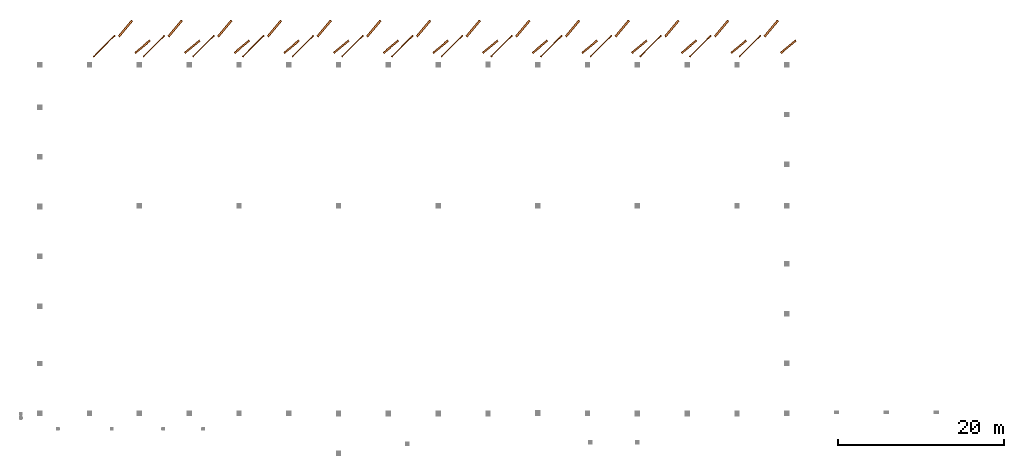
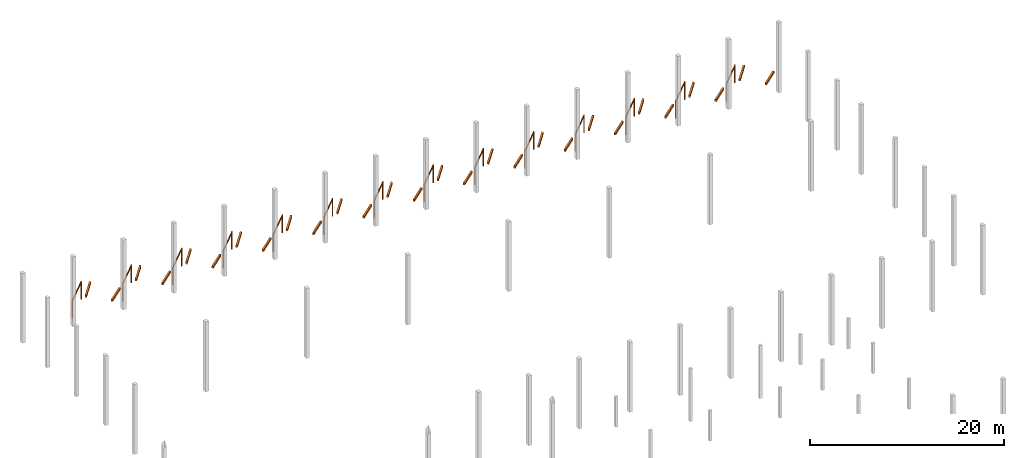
# One storey, part 3 of 3: 14 proxies.
"""IFC2X3 building model written with IfcOpenShell, lengths in millimetres."""

import ifcopenshell
import ifcopenshell.guid

model = None  # the IFC model being written
_history = None  # IfcOwnerHistory: only IFC2X3 demands one
_inside = {}  # id of a spatial element -> (the spatial element, [elements in it])
_under = {}  # id of a project, library or spatial element -> (it, [spatial elements below it])
_declared = {}  # id of a project -> (the project, [libraries it declares])
_typed = {}  # id of a type object -> (the type object, [elements of that type])
_made_of = {}  # id of a material, layer set ... -> (it, [elements and type objects made of it])


def new_model(schema):
    """Start an empty IFC model of exactly this schema.

    Asked for "IFC4X3", IfcOpenShell would pick the latest addendum, in which some entities
    have other attributes; the version numbers below select the first issue.
    IFC2X3 requires an IfcOwnerHistory on every rooted entity: one is made here for all.
    """
    global model, _history
    if schema == "IFC4X3":
        model = ifcopenshell.file(schema_version=(4, 3, 0, 0))
    else:
        model = ifcopenshell.file(schema=schema)
    _inside.clear()
    _under.clear()
    _declared.clear()
    _typed.clear()
    _made_of.clear()
    _history = None
    if model.schema == "IFC2X3":
        org = make("IfcOrganization", Name="unknown")
        user = make(
            "IfcPersonAndOrganization",
            ThePerson=make("IfcPerson", FamilyName="unknown"),
            TheOrganization=org,
        )
        app = make(
            "IfcApplication",
            ApplicationDeveloper=org,
            Version="unknown",
            ApplicationFullName="unknown",
            ApplicationIdentifier="unknown",
        )
        _history = make(
            "IfcOwnerHistory",
            OwningUser=user,
            OwningApplication=app,
            ChangeAction="ADDED",
            CreationDate=0,
        )
    return model


def make(cls, **values):
    """One entity of the class cls with the attributes given. An attribute that is None is left unset."""
    return model.create_entity(
        cls, **{name: value for name, value in values.items() if value is not None}
    )


def entity(cls, *values):
    """Any entity or typed value of the class cls, its attributes in the order of the schema. None: left unset."""
    e = model.create_entity(cls)
    for i, value in enumerate(values):
        if value is not None:
            e[i] = value
    return e


def rooted(cls, **values):
    """An entity with a GlobalId (a new one), such as an element, a storey or a relation."""
    return make(cls, GlobalId=ifcopenshell.guid.new(), OwnerHistory=_history, **values)


def si_unit(unit_type, name, prefix=None):
    """IfcSIUnit, for example si_unit("LENGTHUNIT", "METRE", prefix="MILLI")."""
    return make("IfcSIUnit", UnitType=unit_type, Prefix=prefix, Name=name)


def converted_unit(unit_type, name, factor, base, dimensions=None, offset=None):
    """IfcConversionBasedUnit, such as the inch: factor (a typed value) times the base unit."""
    return make(
        "IfcConversionBasedUnit"
        if offset is None
        else "IfcConversionBasedUnitWithOffset",
        ConversionOffset=offset,
        Dimensions=None
        if dimensions is None
        else entity("IfcDimensionalExponents", *dimensions),
        UnitType=unit_type,
        Name=name,
        ConversionFactor=make(
            "IfcMeasureWithUnit", ValueComponent=factor, UnitComponent=base
        ),
    )


def derived_unit(unit_type, elements):
    """IfcDerivedUnit: a product of units, each with its exponent."""
    return make(
        "IfcDerivedUnit",
        Elements=[
            make("IfcDerivedUnitElement", Unit=unit, Exponent=power)
            for unit, power in elements
        ],
        UnitType=unit_type,
    )


def assignment(units):
    """IfcUnitAssignment: the units of a project."""
    return None if units is None else make("IfcUnitAssignment", Units=units)


def point(xyz):
    """IfcCartesianPoint."""
    return None if xyz is None else make("IfcCartesianPoint", Coordinates=xyz)


def direction(xyz):
    """IfcDirection."""
    return None if xyz is None else make("IfcDirection", DirectionRatios=xyz)


def frame(location, z_axis=None, x_axis=None):
    """IfcAxis2Placement3D, a coordinate frame: its origin and axes. An axis left out is left unset."""
    return make(
        "IfcAxis2Placement3D",
        Location=point(location),
        Axis=direction(z_axis),
        RefDirection=direction(x_axis),
    )


def frame_2d(location, x_axis=None):
    """IfcAxis2Placement2D, a coordinate frame in the plane: its origin and x axis."""
    return make(
        "IfcAxis2Placement2D", Location=point(location), RefDirection=direction(x_axis)
    )


def origin():
    """The frame at (0, 0, 0) with its axes left unset."""
    return frame((0.0, 0.0, 0.0))


def origin_2d_with_axis():
    """The frame at (0, 0) in the plane with the x axis (1, 0) written out."""
    return frame_2d((0.0, 0.0), x_axis=(1.0, 0.0))


def place(relative_to, where):
    """IfcLocalPlacement: puts the frame where relative to a parent placement (None: the world)."""
    return make(
        "IfcLocalPlacement", PlacementRelTo=relative_to, RelativePlacement=where
    )


def context(
    kind, dimensions, precision=None, world=None, true_north=None, identifier=None
):
    """IfcGeometricRepresentationContext, for example the 3D "Model" context."""
    return make(
        "IfcGeometricRepresentationContext",
        ContextIdentifier=identifier,
        ContextType=kind,
        CoordinateSpaceDimension=dimensions,
        Precision=precision,
        WorldCoordinateSystem=world,
        TrueNorth=true_north,
    )


def subcontext(parent, identifier, kind, view, scale=None):
    """IfcGeometricRepresentationSubContext, for example "Body" below "Model"."""
    return make(
        "IfcGeometricRepresentationSubContext",
        ContextIdentifier=identifier,
        ContextType=kind,
        ParentContext=parent,
        TargetScale=scale,
        TargetView=view,
    )


def project(units=None, contexts=None):
    """IfcProject with its units and contexts."""
    return rooted(
        "IfcProject",
        Name="project",
        RepresentationContexts=contexts,
        UnitsInContext=assignment(units),
    )


def spatial(cls, under=None, at=None, **own):
    """A site, building, storey or space (cls), placed at a placement, below another one or the project."""
    s = rooted(cls, ObjectPlacement=at, **own)
    if under is not None:
        _under.setdefault(under.id(), (under, []))[1].append(s)
    return s


def profile(cls, at=None, kind="AREA", **sizes):
    """A parametric profile (cls). Its sizes go by their IFC names, for example OverallWidth=200.0."""
    return make(cls, ProfileType=kind, Position=at, **sizes)


def rectangle(**sizes):
    """IfcRectangleProfileDef."""
    return profile("IfcRectangleProfileDef", **sizes)


def circle(**sizes):
    """IfcCircleProfileDef."""
    return profile("IfcCircleProfileDef", **sizes)


def extrude(swept, where, along, depth):
    """IfcExtrudedAreaSolid: the profile swept, set in the frame where, extruded along a direction by depth."""
    return make(
        "IfcExtrudedAreaSolid",
        SweptArea=swept,
        Position=where,
        ExtrudedDirection=direction(along),
        Depth=depth,
    )


def shape(context_of_items, identifier, shape_type, items):
    """IfcShapeRepresentation: the items that make up one representation, for example the "Body"."""
    return make(
        "IfcShapeRepresentation",
        ContextOfItems=context_of_items,
        RepresentationIdentifier=identifier,
        RepresentationType=shape_type,
        Items=items,
    )


def source(mapping_origin, context_of_items, identifier, shape_type, items):
    """IfcRepresentationMap: a shape defined once, which mapped items show again and again."""
    return make(
        "IfcRepresentationMap",
        MappingOrigin=mapping_origin,
        MappedRepresentation=shape(context_of_items, identifier, shape_type, items),
    )


def transform(
    local_origin,
    x_axis=None,
    y_axis=None,
    z_axis=None,
    scale=None,
    scale2=None,
    scale3=None,
    uniform=True,
):
    """IfcCartesianTransformationOperator3D, or its non-uniform kind. x_axis, y_axis, z_axis: its Axis1, 2, 3."""
    if uniform:
        return make(
            "IfcCartesianTransformationOperator3D",
            Axis1=direction(x_axis),
            Axis2=direction(y_axis),
            LocalOrigin=point(local_origin),
            Scale=scale,
            Axis3=direction(z_axis),
        )
    return make(
        "IfcCartesianTransformationOperator3DnonUniform",
        Axis1=direction(x_axis),
        Axis2=direction(y_axis),
        LocalOrigin=point(local_origin),
        Scale=scale,
        Axis3=direction(z_axis),
        Scale2=scale2,
        Scale3=scale3,
    )


def mapped(mapping_source, mapping_target):
    """IfcMappedItem: shows the shape of a source again, moved by a transform."""
    return make(
        "IfcMappedItem", MappingSource=mapping_source, MappingTarget=mapping_target
    )


def material(Name=None, Category=None):
    """IfcMaterial."""
    return make("IfcMaterial", Name=Name, Category=Category)


def made_of(thing, what):
    """Note that an element or type object is made of a material, layer set ...; save() writes the relation."""
    if what is not None:
        _made_of.setdefault(what.id(), (what, []))[1].append(thing)
    return thing


def type_object(cls, material=None, **own):
    """A type object (cls), such as IfcWallType, which elements share."""
    return made_of(rooted(cls, **own), material)


def type_shapes(of_type, sources):
    """Give a type object the sources (RepresentationMaps) that its elements show as mapped items."""
    of_type.RepresentationMaps = sources


def element(
    cls,
    number,
    at=None,
    inside=None,
    cuts=None,
    type_object=None,
    material=None,
    context=None,
    identifier="Body",
    shape_type=None,
    held_by="IfcProductDefinitionShape",
    body=None,
    shapes=None,
    **own,
):
    """One element of the class cls, such as IfcWall. Its Tag is "e" and its number.

    at: its placement. inside: the storey or other place that contains it. cuts: it is an
    opening in that element (IfcRelVoidsElement). A single representation is given by context,
    identifier, shape_type and body (its items); several are given by shapes. held_by: the class
    of the entity that holds the representations. save() writes the other relations.
    """
    e = rooted(cls, Tag="e%d" % number, ObjectPlacement=at, **own)
    if body is not None:
        shapes = [shape(context, identifier, shape_type, body)]
    if shapes is not None:
        e.Representation = make(held_by, Representations=shapes)
    if inside is not None:
        _inside.setdefault(inside.id(), (inside, []))[1].append(e)
    if cuts is not None:
        rooted(
            "IfcRelVoidsElement", RelatingBuildingElement=cuts, RelatedOpeningElement=e
        )
    if type_object is not None:
        _typed.setdefault(type_object.id(), (type_object, []))[1].append(e)
    return made_of(e, material)


def aggregate(whole, parts):
    """IfcRelAggregates: a whole, such as a stair, and the parts it consists of."""
    return rooted("IfcRelAggregates", RelatingObject=whole, RelatedObjects=parts)


def save(model, path):
    """Write the relations noted so far, then the file.

    IfcRelAggregates (storeys below a building ...), IfcRelContainedInSpatialStructure (elements
    in a storey), IfcRelDefinesByType, IfcRelAssociatesMaterial and IfcRelDeclares: one each for
    every whole, place, type object, material and project.
    """
    for whole, parts in _under.values():
        aggregate(whole, parts)
    for where, things in _inside.values():
        rooted(
            "IfcRelContainedInSpatialStructure",
            RelatedElements=things,
            RelatingStructure=where,
        )
    for kind, things in _typed.values():
        rooted("IfcRelDefinesByType", RelatedObjects=things, RelatingType=kind)
    for what, things in _made_of.values():
        rooted("IfcRelAssociatesMaterial", RelatedObjects=things, RelatingMaterial=what)
    for by, libraries in _declared.values():
        rooted("IfcRelDeclares", RelatingContext=by, RelatedDefinitions=libraries)
    model.write(path)


model = new_model("IFC2X3")

# Units and contexts
model_context = context("Model", 3, precision=0.01, world=origin(), true_north=direction((4.05803320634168e-15, -1.0)))
body_context = subcontext(model_context, "Body", "Model", "MODEL_VIEW")
ifc_project = project(units=[si_unit("LENGTHUNIT", "METRE", prefix="MILLI"), si_unit("AREAUNIT", "SQUARE_METRE"), si_unit("VOLUMEUNIT", "CUBIC_METRE"), converted_unit("PLANEANGLEUNIT", "DEGREE", entity("IfcRatioMeasure", 0.0174532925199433), si_unit("PLANEANGLEUNIT", "RADIAN"), dimensions=[0, 0, 0, 0, 0, 0, 0]), si_unit("MASSUNIT", "GRAM", prefix="KILO"), derived_unit("MASSDENSITYUNIT", [(si_unit("MASSUNIT", "GRAM", prefix="KILO"), 1), (si_unit("LENGTHUNIT", "METRE"), -3)]), si_unit("TIMEUNIT", "SECOND"), si_unit("FREQUENCYUNIT", "HERTZ"), si_unit("THERMODYNAMICTEMPERATUREUNIT", "DEGREE_CELSIUS"), derived_unit("THERMALTRANSMITTANCEUNIT", [(si_unit("MASSUNIT", "GRAM", prefix="KILO"), 1), (si_unit("THERMODYNAMICTEMPERATUREUNIT", "KELVIN"), -1), (si_unit("TIMEUNIT", "SECOND"), -3)]), derived_unit("VOLUMETRICFLOWRATEUNIT", [(si_unit("LENGTHUNIT", "METRE"), 3), (si_unit("TIMEUNIT", "SECOND"), -1)]), si_unit("ELECTRICCURRENTUNIT", "AMPERE"), si_unit("ELECTRICVOLTAGEUNIT", "VOLT"), si_unit("POWERUNIT", "WATT"), si_unit("FORCEUNIT", "NEWTON", prefix="KILO"), si_unit("ILLUMINANCEUNIT", "LUX"), si_unit("LUMINOUSFLUXUNIT", "LUMEN"), si_unit("LUMINOUSINTENSITYUNIT", "CANDELA"), derived_unit("USERDEFINED", [(si_unit("MASSUNIT", "GRAM", prefix="KILO"), -1), (si_unit("LENGTHUNIT", "METRE"), -2), (si_unit("TIMEUNIT", "SECOND"), 3), (si_unit("LUMINOUSFLUXUNIT", "LUMEN"), 1)]), derived_unit("LINEARVELOCITYUNIT", [(si_unit("LENGTHUNIT", "METRE"), 1), (si_unit("TIMEUNIT", "SECOND"), -1)]), si_unit("PRESSUREUNIT", "PASCAL"), derived_unit("USERDEFINED", [(si_unit("LENGTHUNIT", "METRE"), -2), (si_unit("MASSUNIT", "GRAM", prefix="KILO"), 1), (si_unit("TIMEUNIT", "SECOND"), -2)])], contexts=[model_context])

# Site, building, storey
site_placement = place(None, frame((927466.849349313, 583801.882853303, 0.0), z_axis=(0.0, 0.0, 1.0), x_axis=(-1.0, 0.0, 0.0)))
site = spatial("IfcSite", under=ifc_project, at=site_placement, Name="Surface", CompositionType="ELEMENT")
building_placement = place(site_placement, origin())
building = spatial("IfcBuilding", under=site, at=building_placement, CompositionType="ELEMENT")
storey_placement = place(building_placement, origin())
storey = spatial("IfcBuildingStorey", under=building, at=storey_placement, Name="0. Base level", CompositionType="ELEMENT", Elevation=0.0)

# Proxies
ifc_material = material(Name="bollards")
building_element_proxy_type_1 = type_object("IfcBuildingElementProxyType", Name="Generic Models 44", PredefinedType="NOTDEFINED", material=ifc_material)
shared_shape_1 = source(origin(), body_context, "Body", "SweptSolid", [
    extrude(rectangle(XDim=2506.31363813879, YDim=199.999999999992, at=frame_2d((1.11413100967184e-11, -1.32942545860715e-11), x_axis=(1.0, 0.0))), frame((-133207.854176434, -34712.8468466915, 42770.0), z_axis=(0.0, 0.0, 1.0), x_axis=(0.642787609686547, 0.766044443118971, 0.0)), (0.0, 0.0, 1.0), 268.50535536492),
    extrude(rectangle(XDim=2308.44005245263, YDim=199.999999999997, at=origin_2d_with_axis()), frame((-135265.885173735, -32515.4305244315, 42770.0), z_axis=(0.0, 0.0, 1.0), x_axis=(0.766044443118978, 0.64278760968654, 0.0)), (0.0, 0.0, 1.0), 268.50535536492),
    extrude(rectangle(XDim=3383.81005692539, YDim=99.9999999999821, at=frame_2d((-1.22781784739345e-11, 1.22497567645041e-11), x_axis=(1.0, 0.0))), frame((-130646.95155095, -32586.0667509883, 44746.1646464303), z_axis=(0.0, 0.0, 1.0), x_axis=(0.707106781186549, 0.707106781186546, 0.0)), (0.0, 0.0, 1.0), 195.463424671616),
    extrude(circle(Radius=75.0, at=origin_2d_with_axis()), frame((-131873.020932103, -33810.9678051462, 42695.9057084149)), (0.0, 0.0, 1.0), 2245.72236268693),
    extrude(circle(Radius=75.0, at=origin_2d_with_axis()), frame((-129412.832202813, -31353.5552474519, 42695.9057084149)), (0.0, 0.0, 1.0), 2245.72236268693),
])
type_shapes(building_element_proxy_type_1, [shared_shape_1])
proxy_1_placement = place(storey_placement, origin())
element("IfcBuildingElementProxy", 1, at=proxy_1_placement, inside=storey, type_object=building_element_proxy_type_1, material=ifc_material, Name="Generic Models 45:Generic Models 44", ObjectType="Generic Models 44", context=body_context, shape_type="MappedRepresentation", body=[
    mapped(shared_shape_1, transform((0.0, 0.0, 0.0), scale=1.0)),
])
building_element_proxy_type_2 = type_object("IfcBuildingElementProxyType", Name="Generic Models 44", PredefinedType="NOTDEFINED", material=ifc_material)
shared_shape_2 = source(origin(), body_context, "Body", "SweptSolid", [
    extrude(rectangle(XDim=2506.31363813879, YDim=199.999999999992, at=origin_2d_with_axis()), frame((-127222.530895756, -34712.8468466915, 42770.0), z_axis=(0.0, 0.0, 1.0), x_axis=(0.642787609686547, 0.766044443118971, 0.0)), (0.0, 0.0, 1.0), 268.50535536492),
    extrude(rectangle(XDim=2308.44005245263, YDim=199.999999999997, at=frame_2d((-1.33013600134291e-11, 1.11342046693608e-11), x_axis=(1.0, 0.0))), frame((-129280.561893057, -32515.4305244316, 42770.0), z_axis=(0.0, 0.0, 1.0), x_axis=(0.766044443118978, 0.64278760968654, 0.0)), (0.0, 0.0, 1.0), 268.50535536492),
    extrude(rectangle(XDim=3383.81005692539, YDim=99.9999999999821, at=origin_2d_with_axis()), frame((-124661.628270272, -32586.0667509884, 44746.1646464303), z_axis=(0.0, 0.0, 1.0), x_axis=(0.707106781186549, 0.707106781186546, 0.0)), (0.0, 0.0, 1.0), 195.463424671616),
    extrude(circle(Radius=75.0, at=origin_2d_with_axis()), frame((-125887.697651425, -33810.9678051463, 42695.9057084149)), (0.0, 0.0, 1.0), 2245.72236268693),
    extrude(circle(Radius=75.0, at=origin_2d_with_axis()), frame((-123427.508922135, -31353.5552474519, 42695.9057084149)), (0.0, 0.0, 1.0), 2245.72236268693),
])
type_shapes(building_element_proxy_type_2, [shared_shape_2])
proxy_2_placement = place(storey_placement, origin())
element("IfcBuildingElementProxy", 2, at=proxy_2_placement, inside=storey, type_object=building_element_proxy_type_2, material=ifc_material, Name="Generic Models 46:Generic Models 44", ObjectType="Generic Models 44", context=body_context, shape_type="MappedRepresentation", body=[
    mapped(shared_shape_2, transform((0.0, 0.0, 0.0), scale=1.0)),
])
building_element_proxy_type_3 = type_object("IfcBuildingElementProxyType", Name="Generic Models 44", PredefinedType="NOTDEFINED", material=ifc_material)
shared_shape_3 = source(origin(), body_context, "Body", "SweptSolid", [
    extrude(rectangle(XDim=2506.31363813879, YDim=199.999999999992, at=frame_2d((1.11413100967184e-11, -1.32942545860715e-11), x_axis=(1.0, 0.0))), frame((-121237.207615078, -34712.8468466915, 42770.0), z_axis=(0.0, 0.0, 1.0), x_axis=(0.642787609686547, 0.766044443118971, 0.0)), (0.0, 0.0, 1.0), 268.50535536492),
    extrude(rectangle(XDim=2308.44005245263, YDim=199.999999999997, at=origin_2d_with_axis()), frame((-123295.238612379, -32515.4305244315, 42770.0), z_axis=(0.0, 0.0, 1.0), x_axis=(0.766044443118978, 0.64278760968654, 0.0)), (0.0, 0.0, 1.0), 268.50535536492),
    extrude(rectangle(XDim=3383.81005692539, YDim=99.9999999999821, at=frame_2d((-1.22781784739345e-11, 1.22497567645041e-11), x_axis=(1.0, 0.0))), frame((-118676.304989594, -32586.0667509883, 44746.1646464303), z_axis=(0.0, 0.0, 1.0), x_axis=(0.707106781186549, 0.707106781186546, 0.0)), (0.0, 0.0, 1.0), 195.463424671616),
    extrude(circle(Radius=75.0, at=origin_2d_with_axis()), frame((-119902.374370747, -33810.9678051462, 42695.9057084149)), (0.0, 0.0, 1.0), 2245.72236268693),
    extrude(circle(Radius=75.0, at=origin_2d_with_axis()), frame((-117442.185641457, -31353.5552474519, 42695.9057084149)), (0.0, 0.0, 1.0), 2245.72236268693),
])
type_shapes(building_element_proxy_type_3, [shared_shape_3])
proxy_3_placement = place(storey_placement, origin())
element("IfcBuildingElementProxy", 3, at=proxy_3_placement, inside=storey, type_object=building_element_proxy_type_3, material=ifc_material, Name="Generic Models 47:Generic Models 44", ObjectType="Generic Models 44", context=body_context, shape_type="MappedRepresentation", body=[
    mapped(shared_shape_3, transform((0.0, 0.0, 0.0), scale=1.0)),
])
building_element_proxy_type_4 = type_object("IfcBuildingElementProxyType", Name="Generic Models 44", PredefinedType="NOTDEFINED", material=ifc_material)
shared_shape_4 = source(origin(), body_context, "Body", "SweptSolid", [
    extrude(rectangle(XDim=2506.31363813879, YDim=199.999999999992, at=origin_2d_with_axis()), frame((-115251.8843344, -34712.8468466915, 42770.0), z_axis=(0.0, 0.0, 1.0), x_axis=(0.642787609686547, 0.766044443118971, 0.0)), (0.0, 0.0, 1.0), 268.50535536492),
    extrude(rectangle(XDim=2308.44005245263, YDim=199.999999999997, at=frame_2d((-1.33013600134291e-11, 1.11342046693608e-11), x_axis=(1.0, 0.0))), frame((-117309.915331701, -32515.4305244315, 42770.0), z_axis=(0.0, 0.0, 1.0), x_axis=(0.766044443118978, 0.64278760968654, 0.0)), (0.0, 0.0, 1.0), 268.50535536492),
    extrude(rectangle(XDim=3383.81005692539, YDim=99.9999999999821, at=frame_2d((-1.22781784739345e-11, 1.22497567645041e-11), x_axis=(1.0, 0.0))), frame((-112690.981708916, -32586.0667509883, 44746.1646464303), z_axis=(0.0, 0.0, 1.0), x_axis=(0.707106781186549, 0.707106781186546, 0.0)), (0.0, 0.0, 1.0), 195.463424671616),
    extrude(circle(Radius=75.0, at=origin_2d_with_axis()), frame((-113917.051090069, -33810.9678051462, 42695.9057084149)), (0.0, 0.0, 1.0), 2245.72236268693),
    extrude(circle(Radius=75.0, at=origin_2d_with_axis()), frame((-111456.862360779, -31353.5552474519, 42695.9057084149)), (0.0, 0.0, 1.0), 2245.72236268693),
])
type_shapes(building_element_proxy_type_4, [shared_shape_4])
proxy_4_placement = place(storey_placement, origin())
element("IfcBuildingElementProxy", 4, at=proxy_4_placement, inside=storey, type_object=building_element_proxy_type_4, material=ifc_material, Name="Generic Models 48:Generic Models 44", ObjectType="Generic Models 44", context=body_context, shape_type="MappedRepresentation", body=[
    mapped(shared_shape_4, transform((0.0, 0.0, 0.0), scale=1.0)),
])
building_element_proxy_type_5 = type_object("IfcBuildingElementProxyType", Name="Generic Models 44", PredefinedType="NOTDEFINED", material=ifc_material)
shared_shape_5 = source(origin(), body_context, "Body", "SweptSolid", [
    extrude(rectangle(XDim=2506.31363813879, YDim=199.999999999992, at=frame_2d((1.11413100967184e-11, -1.32942545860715e-11), x_axis=(1.0, 0.0))), frame((-109266.561053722, -34712.8468466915, 42770.0), z_axis=(0.0, 0.0, 1.0), x_axis=(0.642787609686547, 0.766044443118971, 0.0)), (0.0, 0.0, 1.0), 268.50535536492),
    extrude(rectangle(XDim=2308.44005245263, YDim=199.999999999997, at=origin_2d_with_axis()), frame((-111324.592051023, -32515.4305244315, 42770.0), z_axis=(0.0, 0.0, 1.0), x_axis=(0.766044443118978, 0.64278760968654, 0.0)), (0.0, 0.0, 1.0), 268.50535536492),
    extrude(rectangle(XDim=3383.81005692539, YDim=99.9999999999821, at=frame_2d((-1.22781784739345e-11, 1.22497567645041e-11), x_axis=(1.0, 0.0))), frame((-106705.658428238, -32586.0667509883, 44746.1646464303), z_axis=(0.0, 0.0, 1.0), x_axis=(0.707106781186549, 0.707106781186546, 0.0)), (0.0, 0.0, 1.0), 195.463424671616),
    extrude(circle(Radius=75.0, at=origin_2d_with_axis()), frame((-107931.72780939, -33810.9678051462, 42695.9057084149)), (0.0, 0.0, 1.0), 2245.72236268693),
    extrude(circle(Radius=75.0, at=origin_2d_with_axis()), frame((-105471.539080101, -31353.5552474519, 42695.9057084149)), (0.0, 0.0, 1.0), 2245.72236268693),
])
type_shapes(building_element_proxy_type_5, [shared_shape_5])
proxy_5_placement = place(storey_placement, origin())
element("IfcBuildingElementProxy", 5, at=proxy_5_placement, inside=storey, type_object=building_element_proxy_type_5, material=ifc_material, Name="Generic Models 49:Generic Models 44", ObjectType="Generic Models 44", context=body_context, shape_type="MappedRepresentation", body=[
    mapped(shared_shape_5, transform((0.0, 0.0, 0.0), scale=1.0)),
])
building_element_proxy_type_6 = type_object("IfcBuildingElementProxyType", Name="Generic Models 44", PredefinedType="NOTDEFINED", material=ifc_material)
shared_shape_6 = source(origin(), body_context, "Body", "SweptSolid", [
    extrude(rectangle(XDim=2506.31363813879, YDim=199.999999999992, at=origin_2d_with_axis()), frame((-103281.237773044, -34712.8468466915, 42770.0), z_axis=(0.0, 0.0, 1.0), x_axis=(0.642787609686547, 0.766044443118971, 0.0)), (0.0, 0.0, 1.0), 268.50535536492),
    extrude(rectangle(XDim=2308.44005245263, YDim=199.999999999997, at=frame_2d((-1.33013600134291e-11, 1.11342046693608e-11), x_axis=(1.0, 0.0))), frame((-105339.268770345, -32515.4305244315, 42770.0), z_axis=(0.0, 0.0, 1.0), x_axis=(0.766044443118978, 0.64278760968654, 0.0)), (0.0, 0.0, 1.0), 268.50535536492),
    extrude(rectangle(XDim=3383.81005692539, YDim=99.9999999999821, at=frame_2d((-1.22781784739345e-11, 1.22497567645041e-11), x_axis=(1.0, 0.0))), frame((-100720.33514756, -32586.0667509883, 44746.1646464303), z_axis=(0.0, 0.0, 1.0), x_axis=(0.707106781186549, 0.707106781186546, 0.0)), (0.0, 0.0, 1.0), 195.463424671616),
    extrude(circle(Radius=75.0, at=origin_2d_with_axis()), frame((-101946.404528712, -33810.9678051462, 42695.9057084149)), (0.0, 0.0, 1.0), 2245.72236268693),
    extrude(circle(Radius=75.0, at=origin_2d_with_axis()), frame((-99486.215799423, -31353.5552474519, 42695.9057084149)), (0.0, 0.0, 1.0), 2245.72236268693),
])
type_shapes(building_element_proxy_type_6, [shared_shape_6])
proxy_6_placement = place(storey_placement, origin())
element("IfcBuildingElementProxy", 6, at=proxy_6_placement, inside=storey, type_object=building_element_proxy_type_6, material=ifc_material, Name="Generic Models 50:Generic Models 44", ObjectType="Generic Models 44", context=body_context, shape_type="MappedRepresentation", body=[
    mapped(shared_shape_6, transform((0.0, 0.0, 0.0), scale=1.0)),
])
building_element_proxy_type_7 = type_object("IfcBuildingElementProxyType", Name="Generic Models 44", PredefinedType="NOTDEFINED", material=ifc_material)
shared_shape_7 = source(origin(), body_context, "Body", "SweptSolid", [
    extrude(rectangle(XDim=2506.31363813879, YDim=199.999999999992, at=frame_2d((1.11413100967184e-11, -1.32942545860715e-11), x_axis=(1.0, 0.0))), frame((-97295.9144923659, -34712.8468466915, 42770.0), z_axis=(0.0, 0.0, 1.0), x_axis=(0.642787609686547, 0.766044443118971, 0.0)), (0.0, 0.0, 1.0), 268.50535536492),
    extrude(rectangle(XDim=2308.44005245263, YDim=199.999999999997, at=origin_2d_with_axis()), frame((-99353.9454896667, -32515.4305244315, 42770.0), z_axis=(0.0, 0.0, 1.0), x_axis=(0.766044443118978, 0.64278760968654, 0.0)), (0.0, 0.0, 1.0), 268.50535536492),
    extrude(rectangle(XDim=3383.81005692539, YDim=99.9999999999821, at=frame_2d((-1.22781784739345e-11, 1.22497567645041e-11), x_axis=(1.0, 0.0))), frame((-94735.0118668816, -32586.0667509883, 44746.1646464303), z_axis=(0.0, 0.0, 1.0), x_axis=(0.707106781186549, 0.707106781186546, 0.0)), (0.0, 0.0, 1.0), 195.463424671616),
    extrude(circle(Radius=75.0, at=origin_2d_with_axis()), frame((-95961.0812480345, -33810.9678051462, 42695.9057084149)), (0.0, 0.0, 1.0), 2245.72236268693),
    extrude(circle(Radius=75.0, at=origin_2d_with_axis()), frame((-93500.8925187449, -31353.5552474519, 42695.9057084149)), (0.0, 0.0, 1.0), 2245.72236268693),
])
type_shapes(building_element_proxy_type_7, [shared_shape_7])
proxy_7_placement = place(storey_placement, origin())
element("IfcBuildingElementProxy", 7, at=proxy_7_placement, inside=storey, type_object=building_element_proxy_type_7, material=ifc_material, Name="Generic Models 51:Generic Models 44", ObjectType="Generic Models 44", context=body_context, shape_type="MappedRepresentation", body=[
    mapped(shared_shape_7, transform((0.0, 0.0, 0.0), scale=1.0)),
])
building_element_proxy_type_8 = type_object("IfcBuildingElementProxyType", Name="Generic Models 44", PredefinedType="NOTDEFINED", material=ifc_material)
shared_shape_8 = source(origin(), body_context, "Body", "SweptSolid", [
    extrude(rectangle(XDim=2506.31363813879, YDim=199.999999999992, at=origin_2d_with_axis()), frame((-91310.5912116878, -34712.8468466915, 42770.0), z_axis=(0.0, 0.0, 1.0), x_axis=(0.642787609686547, 0.766044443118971, 0.0)), (0.0, 0.0, 1.0), 268.50535536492),
    extrude(rectangle(XDim=2308.44005245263, YDim=199.999999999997, at=frame_2d((-1.33013600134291e-11, 1.11342046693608e-11), x_axis=(1.0, 0.0))), frame((-93368.6222089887, -32515.4305244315, 42770.0), z_axis=(0.0, 0.0, 1.0), x_axis=(0.766044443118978, 0.64278760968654, 0.0)), (0.0, 0.0, 1.0), 268.50535536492),
    extrude(rectangle(XDim=3383.81005692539, YDim=99.9999999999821, at=frame_2d((-1.22781784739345e-11, 1.22497567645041e-11), x_axis=(1.0, 0.0))), frame((-88749.6885862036, -32586.0667509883, 44746.1646464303), z_axis=(0.0, 0.0, 1.0), x_axis=(0.707106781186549, 0.707106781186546, 0.0)), (0.0, 0.0, 1.0), 195.463424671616),
    extrude(circle(Radius=75.0, at=origin_2d_with_axis()), frame((-89975.7579673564, -33810.9678051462, 42695.9057084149)), (0.0, 0.0, 1.0), 2245.72236268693),
    extrude(circle(Radius=75.0, at=origin_2d_with_axis()), frame((-87515.5692380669, -31353.5552474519, 42695.9057084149)), (0.0, 0.0, 1.0), 2245.72236268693),
])
type_shapes(building_element_proxy_type_8, [shared_shape_8])
proxy_8_placement = place(storey_placement, origin())
element("IfcBuildingElementProxy", 8, at=proxy_8_placement, inside=storey, type_object=building_element_proxy_type_8, material=ifc_material, Name="Generic Models 52:Generic Models 44", ObjectType="Generic Models 44", context=body_context, shape_type="MappedRepresentation", body=[
    mapped(shared_shape_8, transform((0.0, 0.0, 0.0), scale=1.0)),
])
building_element_proxy_type_9 = type_object("IfcBuildingElementProxyType", Name="Generic Models 44", PredefinedType="NOTDEFINED", material=ifc_material)
shared_shape_9 = source(origin(), body_context, "Body", "SweptSolid", [
    extrude(rectangle(XDim=2506.31363813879, YDim=199.999999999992, at=frame_2d((1.11413100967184e-11, -1.32942545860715e-11), x_axis=(1.0, 0.0))), frame((-85325.2679310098, -34712.8468466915, 42770.0), z_axis=(0.0, 0.0, 1.0), x_axis=(0.642787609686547, 0.766044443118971, 0.0)), (0.0, 0.0, 1.0), 268.50535536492),
    extrude(rectangle(XDim=2308.44005245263, YDim=199.999999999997, at=origin_2d_with_axis()), frame((-87383.2989283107, -32515.4305244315, 42770.0), z_axis=(0.0, 0.0, 1.0), x_axis=(0.766044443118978, 0.64278760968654, 0.0)), (0.0, 0.0, 1.0), 268.50535536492),
    extrude(rectangle(XDim=3383.81005692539, YDim=99.9999999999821, at=frame_2d((-1.22781784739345e-11, 1.22497567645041e-11), x_axis=(1.0, 0.0))), frame((-82764.3653055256, -32586.0667509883, 44746.1646464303), z_axis=(0.0, 0.0, 1.0), x_axis=(0.707106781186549, 0.707106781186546, 0.0)), (0.0, 0.0, 1.0), 195.463424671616),
    extrude(circle(Radius=75.0, at=origin_2d_with_axis()), frame((-83990.4346866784, -33810.9678051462, 42695.9057084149)), (0.0, 0.0, 1.0), 2245.72236268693),
    extrude(circle(Radius=75.0, at=origin_2d_with_axis()), frame((-81530.2459573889, -31353.5552474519, 42695.9057084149)), (0.0, 0.0, 1.0), 2245.72236268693),
])
type_shapes(building_element_proxy_type_9, [shared_shape_9])
proxy_9_placement = place(storey_placement, origin())
element("IfcBuildingElementProxy", 9, at=proxy_9_placement, inside=storey, type_object=building_element_proxy_type_9, material=ifc_material, Name="Generic Models 53:Generic Models 44", ObjectType="Generic Models 44", context=body_context, shape_type="MappedRepresentation", body=[
    mapped(shared_shape_9, transform((0.0, 0.0, 0.0), scale=1.0)),
])
building_element_proxy_type_10 = type_object("IfcBuildingElementProxyType", Name="Generic Models 44", PredefinedType="NOTDEFINED", material=ifc_material)
shared_shape_10 = source(origin(), body_context, "Body", "SweptSolid", [
    extrude(rectangle(XDim=2506.31363813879, YDim=199.999999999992, at=origin_2d_with_axis()), frame((-79339.9446503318, -34712.8468466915, 42770.0), z_axis=(0.0, 0.0, 1.0), x_axis=(0.642787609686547, 0.766044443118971, 0.0)), (0.0, 0.0, 1.0), 268.50535536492),
    extrude(rectangle(XDim=2308.44005245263, YDim=199.999999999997, at=frame_2d((-1.33013600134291e-11, 1.11342046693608e-11), x_axis=(1.0, 0.0))), frame((-81397.9756476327, -32515.4305244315, 42770.0), z_axis=(0.0, 0.0, 1.0), x_axis=(0.766044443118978, 0.64278760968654, 0.0)), (0.0, 0.0, 1.0), 268.50535536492),
    extrude(rectangle(XDim=3383.81005692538, YDim=99.9999999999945, at=origin_2d_with_axis()), frame((-76779.0420248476, -32586.0667509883, 44746.1646464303), z_axis=(0.0, 0.0, 1.0), x_axis=(0.707106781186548, 0.707106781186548, 0.0)), (0.0, 0.0, 1.0), 195.463424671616),
    extrude(circle(Radius=75.0, at=origin_2d_with_axis()), frame((-78005.1114060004, -33810.9678051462, 42695.9057084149)), (0.0, 0.0, 1.0), 2245.72236268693),
    extrude(circle(Radius=75.0, at=origin_2d_with_axis()), frame((-75544.9226767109, -31353.5552474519, 42695.9057084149)), (0.0, 0.0, 1.0), 2245.72236268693),
])
type_shapes(building_element_proxy_type_10, [shared_shape_10])
proxy_10_placement = place(storey_placement, origin())
element("IfcBuildingElementProxy", 10, at=proxy_10_placement, inside=storey, type_object=building_element_proxy_type_10, material=ifc_material, Name="Generic Models 54:Generic Models 44", ObjectType="Generic Models 44", context=body_context, shape_type="MappedRepresentation", body=[
    mapped(shared_shape_10, transform((0.0, 0.0, 0.0), scale=1.0)),
])
building_element_proxy_type_11 = type_object("IfcBuildingElementProxyType", Name="Generic Models 44", PredefinedType="NOTDEFINED", material=ifc_material)
shared_shape_11 = source(origin(), body_context, "Body", "SweptSolid", [
    extrude(rectangle(XDim=2506.31363813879, YDim=199.999999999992, at=frame_2d((-2.8421709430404e-12, 3.31112914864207e-12), x_axis=(1.0, 0.0))), frame((-73354.6213696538, -34712.8468466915, 42770.0), z_axis=(0.0, 0.0, 1.0), x_axis=(0.642787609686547, 0.766044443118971, 0.0)), (0.0, 0.0, 1.0), 268.50535536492),
    extrude(rectangle(XDim=2308.44005245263, YDim=199.999999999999, at=frame_2d((-1.36424205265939e-12, -1.69109171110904e-12), x_axis=(1.0, 0.0))), frame((-75412.6523669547, -32515.4305244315, 42770.0), z_axis=(0.0, 0.0, 1.0), x_axis=(0.766044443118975, 0.642787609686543, 0.0)), (0.0, 0.0, 1.0), 268.50535536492),
    extrude(rectangle(XDim=3383.81005692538, YDim=99.9999999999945, at=origin_2d_with_axis()), frame((-70793.7187441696, -32586.0667509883, 44746.1646464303), z_axis=(0.0, 0.0, 1.0), x_axis=(0.707106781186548, 0.707106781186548, 0.0)), (0.0, 0.0, 1.0), 195.463424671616),
    extrude(circle(Radius=75.0, at=origin_2d_with_axis()), frame((-72019.7881253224, -33810.9678051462, 42695.9057084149)), (0.0, 0.0, 1.0), 2245.72236268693),
    extrude(circle(Radius=75.0, at=origin_2d_with_axis()), frame((-69559.5993960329, -31353.5552474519, 42695.9057084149)), (0.0, 0.0, 1.0), 2245.72236268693),
])
type_shapes(building_element_proxy_type_11, [shared_shape_11])
proxy_11_placement = place(storey_placement, origin())
element("IfcBuildingElementProxy", 11, at=proxy_11_placement, inside=storey, type_object=building_element_proxy_type_11, material=ifc_material, Name="Generic Models 55:Generic Models 44", ObjectType="Generic Models 44", context=body_context, shape_type="MappedRepresentation", body=[
    mapped(shared_shape_11, transform((0.0, 0.0, 0.0), scale=1.0)),
])
building_element_proxy_type_12 = type_object("IfcBuildingElementProxyType", Name="Generic Models 44", PredefinedType="NOTDEFINED", material=ifc_material)
shared_shape_12 = source(origin(), body_context, "Body", "SweptSolid", [
    extrude(rectangle(XDim=2506.31363813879, YDim=199.999999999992, at=frame_2d((-2.8421709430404e-12, 3.31112914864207e-12), x_axis=(1.0, 0.0))), frame((-67369.2980889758, -34712.8468466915, 42770.0), z_axis=(0.0, 0.0, 1.0), x_axis=(0.642787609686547, 0.766044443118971, 0.0)), (0.0, 0.0, 1.0), 268.50535536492),
    extrude(rectangle(XDim=2308.44005245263, YDim=199.999999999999, at=frame_2d((5.34328137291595e-12, -7.27595761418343e-12), x_axis=(1.0, 0.0))), frame((-69427.3290862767, -32515.4305244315, 42770.0), z_axis=(0.0, 0.0, 1.0), x_axis=(0.766044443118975, 0.642787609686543, 0.0)), (0.0, 0.0, 1.0), 268.50535536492),
    extrude(rectangle(XDim=3383.81005692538, YDim=99.9999999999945, at=origin_2d_with_axis()), frame((-64808.3954634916, -32586.0667509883, 44746.1646464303), z_axis=(0.0, 0.0, 1.0), x_axis=(0.707106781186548, 0.707106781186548, 0.0)), (0.0, 0.0, 1.0), 195.463424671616),
    extrude(circle(Radius=75.0, at=origin_2d_with_axis()), frame((-66034.4648446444, -33810.9678051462, 42695.9057084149)), (0.0, 0.0, 1.0), 2245.72236268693),
    extrude(circle(Radius=75.0, at=origin_2d_with_axis()), frame((-63574.2761153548, -31353.5552474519, 42695.9057084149)), (0.0, 0.0, 1.0), 2245.72236268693),
])
type_shapes(building_element_proxy_type_12, [shared_shape_12])
proxy_12_placement = place(storey_placement, origin())
element("IfcBuildingElementProxy", 12, at=proxy_12_placement, inside=storey, type_object=building_element_proxy_type_12, material=ifc_material, Name="Generic Models 56:Generic Models 44", ObjectType="Generic Models 44", context=body_context, shape_type="MappedRepresentation", body=[
    mapped(shared_shape_12, transform((0.0, 0.0, 0.0), scale=1.0)),
])
building_element_proxy_type_13 = type_object("IfcBuildingElementProxyType", Name="Generic Models 44", PredefinedType="NOTDEFINED", material=ifc_material)
shared_shape_13 = source(origin(), body_context, "Body", "SweptSolid", [
    extrude(rectangle(XDim=2506.31363813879, YDim=199.999999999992, at=frame_2d((-2.8421709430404e-12, 3.31112914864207e-12), x_axis=(1.0, 0.0))), frame((-61383.9748082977, -34712.8468466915, 42770.0), z_axis=(0.0, 0.0, 1.0), x_axis=(0.642787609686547, 0.766044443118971, 0.0)), (0.0, 0.0, 1.0), 268.50535536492),
    extrude(rectangle(XDim=2308.44005245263, YDim=199.999999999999, at=frame_2d((-1.36424205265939e-12, -1.69109171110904e-12), x_axis=(1.0, 0.0))), frame((-63442.0058055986, -32515.4305244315, 42770.0), z_axis=(0.0, 0.0, 1.0), x_axis=(0.766044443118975, 0.642787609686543, 0.0)), (0.0, 0.0, 1.0), 268.50535536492),
    extrude(rectangle(XDim=3383.81005692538, YDim=99.9999999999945, at=origin_2d_with_axis()), frame((-58823.0721828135, -32586.0667509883, 44746.1646464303), z_axis=(0.0, 0.0, 1.0), x_axis=(0.707106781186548, 0.707106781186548, 0.0)), (0.0, 0.0, 1.0), 195.463424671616),
    extrude(circle(Radius=75.0, at=origin_2d_with_axis()), frame((-60049.1415639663, -33810.9678051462, 42695.9057084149)), (0.0, 0.0, 1.0), 2245.72236268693),
    extrude(circle(Radius=75.0, at=origin_2d_with_axis()), frame((-57588.9528346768, -31353.5552474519, 42695.9057084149)), (0.0, 0.0, 1.0), 2245.72236268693),
])
type_shapes(building_element_proxy_type_13, [shared_shape_13])
proxy_13_placement = place(storey_placement, origin())
element("IfcBuildingElementProxy", 13, at=proxy_13_placement, inside=storey, type_object=building_element_proxy_type_13, material=ifc_material, Name="Generic Models 57:Generic Models 44", ObjectType="Generic Models 44", context=body_context, shape_type="MappedRepresentation", body=[
    mapped(shared_shape_13, transform((0.0, 0.0, 0.0), scale=1.0)),
])
building_element_proxy_type_14 = type_object("IfcBuildingElementProxyType", Name="Generic Models 44", PredefinedType="NOTDEFINED", material=ifc_material)
shared_shape_14 = source(origin(), body_context, "Body", "SweptSolid", [
    extrude(rectangle(XDim=2506.31363813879, YDim=199.999999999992, at=frame_2d((-2.8421709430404e-12, 3.31112914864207e-12), x_axis=(1.0, 0.0))), frame((-55398.6515276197, -34712.8468466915, 42770.0), z_axis=(0.0, 0.0, 1.0), x_axis=(0.642787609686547, 0.766044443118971, 0.0)), (0.0, 0.0, 1.0), 268.50535536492),
    extrude(rectangle(XDim=2308.44005245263, YDim=199.999999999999, at=frame_2d((5.34328137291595e-12, -7.27595761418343e-12), x_axis=(1.0, 0.0))), frame((-57456.6825249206, -32515.4305244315, 42770.0), z_axis=(0.0, 0.0, 1.0), x_axis=(0.766044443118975, 0.642787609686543, 0.0)), (0.0, 0.0, 1.0), 268.50535536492),
    extrude(rectangle(XDim=3383.81005692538, YDim=99.9999999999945, at=origin_2d_with_axis()), frame((-52837.7489021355, -32586.0667509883, 44746.1646464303), z_axis=(0.0, 0.0, 1.0), x_axis=(0.707106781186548, 0.707106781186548, 0.0)), (0.0, 0.0, 1.0), 195.463424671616),
    extrude(circle(Radius=75.0, at=origin_2d_with_axis()), frame((-54063.8182832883, -33810.9678051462, 42695.9057084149)), (0.0, 0.0, 1.0), 2245.72236268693),
    extrude(circle(Radius=75.0, at=origin_2d_with_axis()), frame((-51603.6295539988, -31353.5552474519, 42695.9057084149)), (0.0, 0.0, 1.0), 2245.72236268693),
])
type_shapes(building_element_proxy_type_14, [shared_shape_14])
proxy_14_placement = place(storey_placement, origin())
element("IfcBuildingElementProxy", 14, at=proxy_14_placement, inside=storey, type_object=building_element_proxy_type_14, material=ifc_material, Name="Generic Models 58:Generic Models 44", ObjectType="Generic Models 44", context=body_context, shape_type="MappedRepresentation", body=[
    mapped(shared_shape_14, transform((0.0, 0.0, 0.0), scale=1.0)),
])

save(model, "model.ifc")
